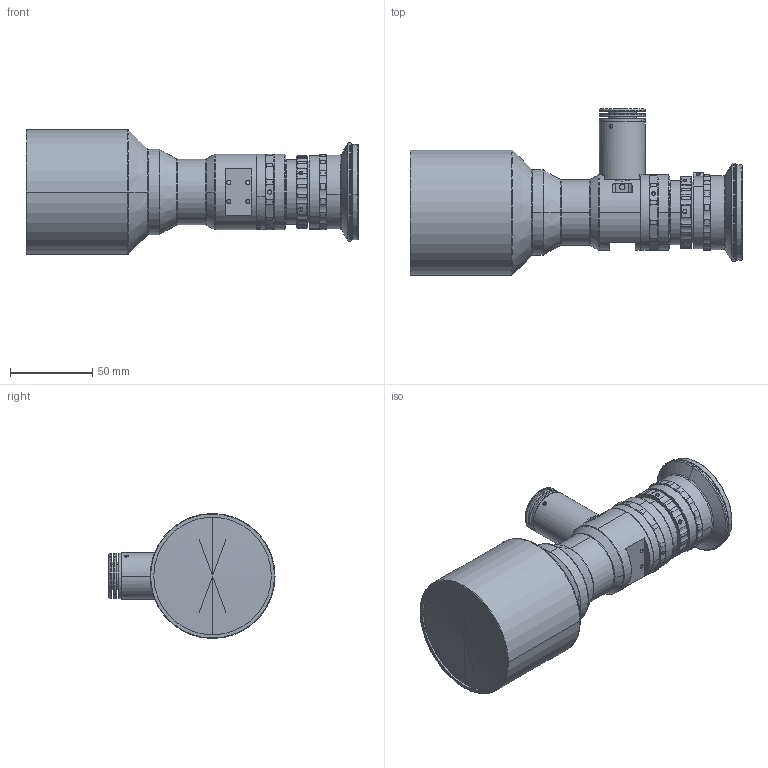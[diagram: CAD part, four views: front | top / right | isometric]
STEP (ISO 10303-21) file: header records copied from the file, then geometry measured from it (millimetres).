
FILE_DESCRIPTION (( 'STEP AP203' ), '1' );
FILE_NAME ('DTCA175-51C-G-M58-ALV3.STEP', '2022-12-30T06:20:26', ( '' ), ( '' ), 'SwSTEP 2.0', 'SolidWorks 2017', '' );
FILE_SCHEMA (( 'CONFIG_CONTROL_DESIGN' ));
Length unit declared in the file: millimetre
Products named in the file (1): DTCA175-51C-G-M58-ALV3
Bounding box: 201.92 x 101 x 76 mm (x, y, z)
Volume: 539767.8 mm3; surface area: 58432 mm2
Topology: 1 solids, 9 shells, 871 faces, 2257 edges, 1445 vertices
Faces by surface type: cylinder 328, plane 243, cone 231, bspline 69
Entity records: 31184 total; most frequent: CARTESIAN_POINT 10214, ORIENTED_EDGE 4498, DIRECTION 4299, EDGE_CURVE 2249, AXIS2_PLACEMENT_3D 1754, VERTEX_POINT 1445, EDGE_LOOP 954, CIRCLE 951
